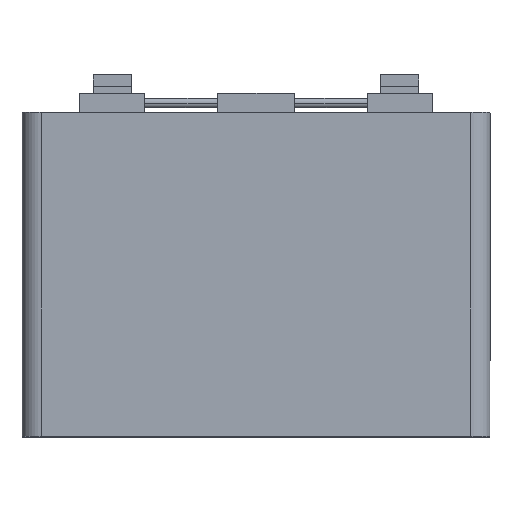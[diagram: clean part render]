
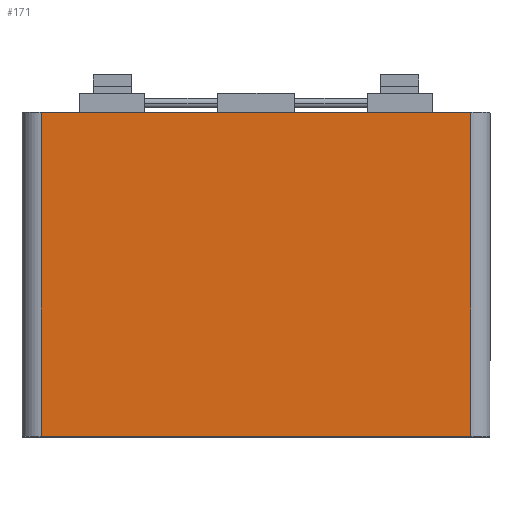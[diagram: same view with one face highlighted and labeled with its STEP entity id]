
A CAD part, top view. The second image highlights one B-rep face of the part: STEP entity #171.
In plain terms, the highlighted planar face has unit normal (0, 0, 1).
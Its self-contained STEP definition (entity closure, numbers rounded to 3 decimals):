
#131 = CARTESIAN_POINT ( 'NONE',  ( 28.46, -42.92, 92. ) ) ;
#171 = ADVANCED_FACE ( 'FACE1121', ( #1071 ), #1092, .T. ) ;
#235 = VECTOR ( 'NONE', #1337, 1000. ) ;
#238 = LINE ( 'NONE', #3990, #235 ) ;
#291 = AXIS2_PLACEMENT_3D ( 'NONE', #131, #784, #1433 ) ;
#389 = VECTOR ( 'NONE', #1236, 1000. ) ;
#396 = LINE ( 'NONE', #1185, #389 ) ;
#551 = CARTESIAN_POINT ( 'NONE',  ( -28.46, 0., 92. ) ) ;
#784 = DIRECTION ( 'NONE',  ( 0., 0., 1. ) ) ;
#1071 = FACE_OUTER_BOUND ( 'NONE', #2789, .T. ) ;
#1092 = PLANE ( 'NONE',  #291 ) ;
#1185 = CARTESIAN_POINT ( 'NONE',  ( -28.46, -42.92, 92. ) ) ;
#1236 = DIRECTION ( 'NONE',  ( 0., -1., 0. ) ) ;
#1337 = DIRECTION ( 'NONE',  ( 0., -1., 0. ) ) ;
#1385 = CARTESIAN_POINT ( 'NONE',  ( -28.46, -42.92, 92. ) ) ;
#1398 = EDGE_CURVE ( 'NONE', #1611, #4337, #238, .T. ) ;
#1433 = DIRECTION ( 'NONE',  ( 1., 0., 0. ) ) ;
#1455 = CARTESIAN_POINT ( 'NONE',  ( 0., 0., 92. ) ) ;
#1515 = EDGE_CURVE ( 'NONE', #1752, #1853, #396, .T. ) ;
#1611 = VERTEX_POINT ( 'NONE', #3016 ) ;
#1631 = CARTESIAN_POINT ( 'NONE',  ( 28.46, -42.92, 92. ) ) ;
#1752 = VERTEX_POINT ( 'NONE', #551 ) ;
#1833 = CARTESIAN_POINT ( 'NONE',  ( 28.46, -42.92, 92. ) ) ;
#1853 = VERTEX_POINT ( 'NONE', #1385 ) ;
#1944 = DIRECTION ( 'NONE',  ( 1., 0., 0. ) ) ;
#2789 = EDGE_LOOP ( 'NONE', ( #2899, #4087, #3201, #4378 ) ) ;
#2899 = ORIENTED_EDGE ( 'NONE', *, *, #3109, .T. ) ;
#3016 = CARTESIAN_POINT ( 'NONE',  ( 28.46, 0., 92. ) ) ;
#3109 = EDGE_CURVE ( 'NONE', #1853, #4337, #3132, .T. ) ;
#3132 = LINE ( 'NONE', #1631, #3157 ) ;
#3157 = VECTOR ( 'NONE', #1944, 1000. ) ;
#3201 = ORIENTED_EDGE ( 'NONE', *, *, #3947, .F. ) ;
#3328 = VECTOR ( 'NONE', #4214, 1000. ) ;
#3824 = LINE ( 'NONE', #1455, #3328 ) ;
#3947 = EDGE_CURVE ( 'NONE', #1752, #1611, #3824, .T. ) ;
#3990 = CARTESIAN_POINT ( 'NONE',  ( 28.46, -42.92, 92. ) ) ;
#4087 = ORIENTED_EDGE ( 'NONE', *, *, #1398, .F. ) ;
#4214 = DIRECTION ( 'NONE',  ( 1., 0., 0. ) ) ;
#4337 = VERTEX_POINT ( 'NONE', #1833 ) ;
#4378 = ORIENTED_EDGE ( 'NONE', *, *, #1515, .T. ) ;
